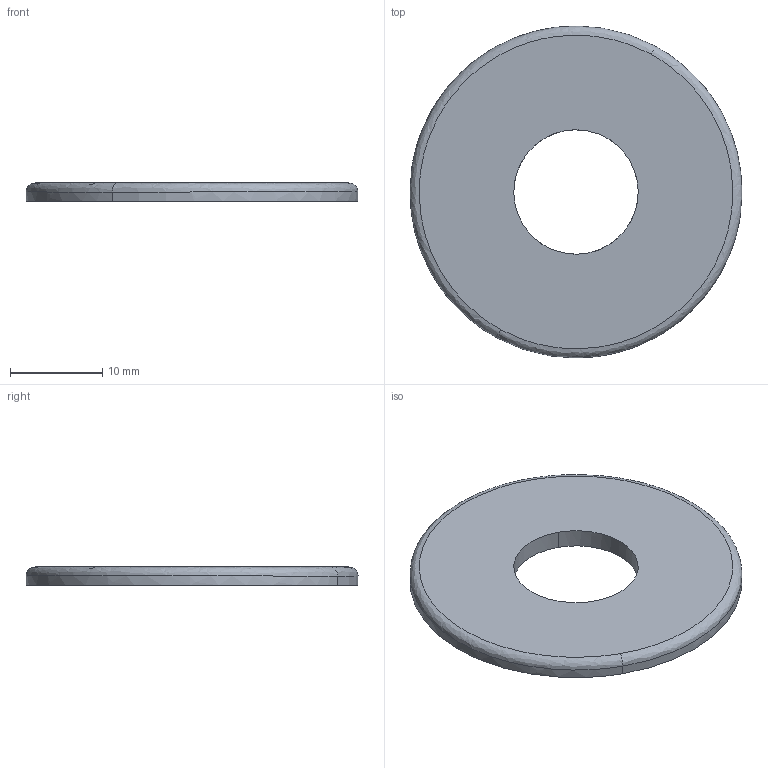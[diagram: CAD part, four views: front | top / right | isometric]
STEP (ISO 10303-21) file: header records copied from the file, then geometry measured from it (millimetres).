
FILE_DESCRIPTION (( 'STEP AP214' ), '1' );
FILE_NAME ('KTU-150WK-GS-70.STEP', '2018-08-30T07:49:55', ( '' ), ( '' ), 'SwSTEP 2.0', 'SolidWorks 2010', '' );
FILE_SCHEMA (( 'AUTOMOTIVE_DESIGN' ));
Length unit declared in the file: millimetre
Products named in the file (1): KTU-150WK-GS-70
Bounding box: 36 x 36 x 2 mm (x, y, z)
Volume: 1724.4 mm3; surface area: 2011.4 mm2
Topology: 1 solids, 1 shells, 8 faces, 38 edges, 32 vertices
Faces by surface type: bspline 6, plane 2
Entity records: 1356 total; most frequent: CARTESIAN_POINT 1081, ORIENTED_EDGE 76, EDGE_CURVE 38, B_SPLINE_CURVE_WITH_KNOTS 34, VERTEX_POINT 32, DIRECTION 10, EDGE_LOOP 10, FACE_OUTER_BOUND 8
